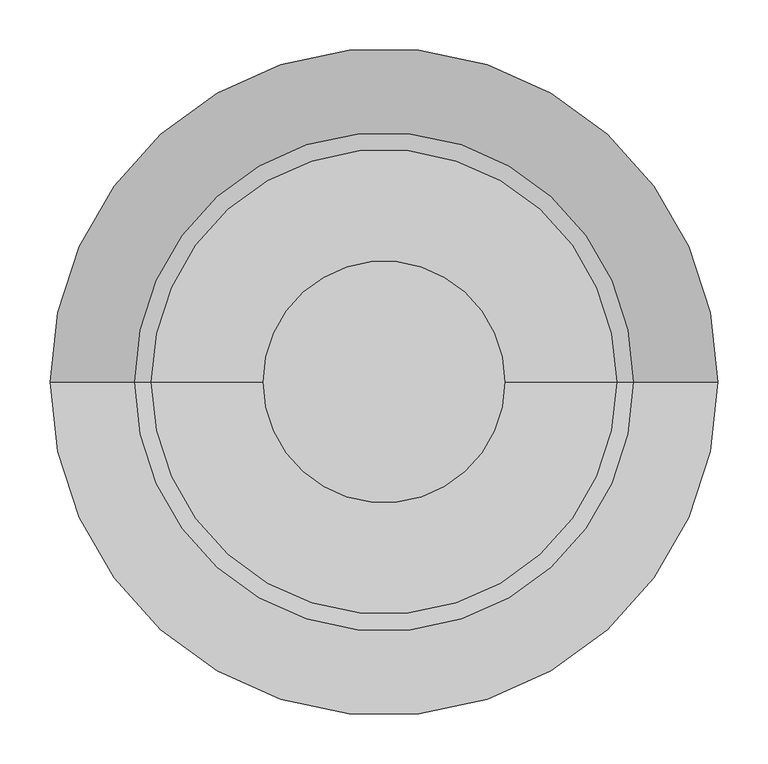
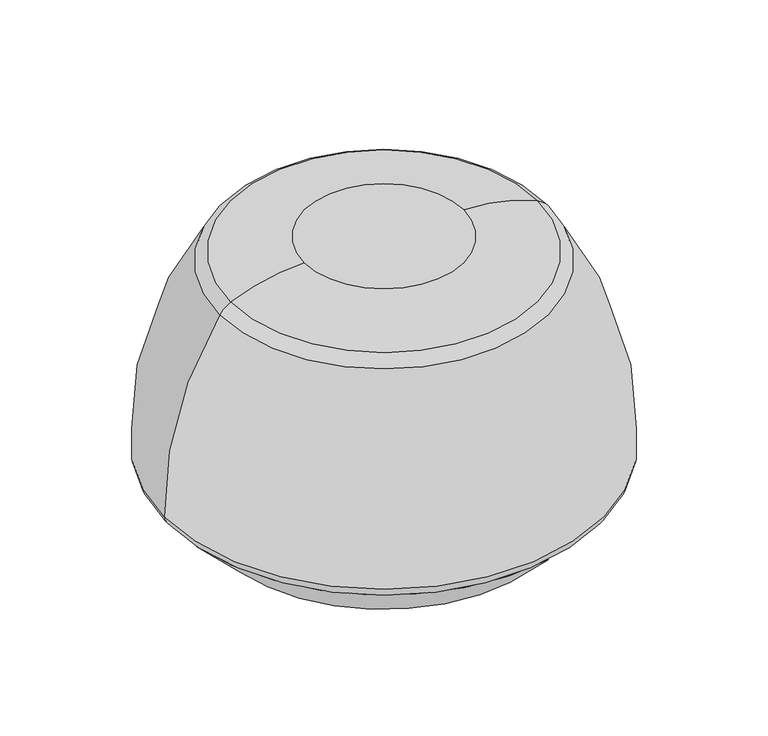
"""IFC4 building model written with IfcOpenShell, lengths in millimetres: furniture geometry, Pouf_Bensen_IlePouf_ILE001 : Pouf_Bensen_IlePouf_ILE001."""

from ifc_helpers import new_model, si_unit, point, frame, origin, place, context, project, spatial, polyline, circle_curve, ellipse_curve, trimmed, source, transform, mapped, element, save
from ifc_brep_helpers import plane_surface, revolved_surface, advanced_brep


def furniture_b467a2fe(model_context):
    return source(origin(), model_context, "Body", "AdvancedBrep", [
        advanced_brep(
        [(119.993779, 0.0, 420.0), (-119.993779, 0.0, 420.0), (-249.8596758, 0.0, 0.0), (249.8596758, 0.0, 0.0), (230.8720473, 0.0, 396.0506005), (-230.8720473, 0.0, 396.0506005), (247.6092461, 0.0, 381.8574548), (-247.6092461, 0.0, 381.8574548), (331.2425517, 0.0, 89.0138906), (-331.2425517, 0.0, 89.0138906), (325.3957224, 0.0, 75.5360466), (-325.3957224, 0.0, 75.5360466)],
        [
            (0, 1, circle_curve(frame((0.0, 0.0, 420.0), z_axis=(0.0, 0.0, 1.0), x_axis=(-1.0, 0.0, 0.0)), 119.993779)),
            (1, 0, circle_curve(frame((0.0, 0.0, 420.0), z_axis=(0.0, 0.0, 1.0), x_axis=(-1.0, 0.0, 0.0)), 119.993779)),
            (2, 3, circle_curve(frame((0.0, 0.0, 0.0), z_axis=(0.0, 0.0, -1.0), x_axis=(-1.0, 0.0, 0.0)), 249.8596758)),
            (3, 2, circle_curve(frame((0.0, 0.0, 0.0), z_axis=(0.0, 0.0, -1.0), x_axis=(-1.0, 0.0, 0.0)), 249.8596758)),
            (4, 5, circle_curve(frame((0.0, 0.0, 396.0506005), z_axis=(0.0, 0.0, 1.0), x_axis=(-1.0, 0.0, 0.0)), 230.8720473)),
            (5, 1, circle_curve(frame((-119.993779, 0.0, 151.3593575), z_axis=(0.0, 1.0, 0.0), x_axis=(1.0, 0.0, 0.0)), 268.6406425)),
            (0, 4, circle_curve(frame((119.993779, 0.0, 151.3593575), z_axis=(0.0, 1.0, 0.0), x_axis=(-1.0, 0.0, 0.0)), 268.6406425)),
            (5, 4, circle_curve(frame((0.0, 0.0, 396.0506005), z_axis=(0.0, 0.0, 1.0), x_axis=(-1.0, 0.0, 0.0)), 230.8720473)),
            (4, 6, circle_curve(frame((214.3625174, 0.0, 359.6166134), z_axis=(0.0, 1.0, 0.0), x_axis=(-1.0, 0.0, 0.0)), 40.0)),
            (6, 7, circle_curve(frame((0.0, 0.0, 381.8574548), z_axis=(0.0, 0.0, 1.0), x_axis=(-1.0, 0.0, 0.0)), 247.6092461)),
            (7, 5, circle_curve(frame((-214.3625174, 0.0, 359.6166134), z_axis=(0.0, 1.0, 0.0), x_axis=(1.0, 0.0, 0.0)), 40.0)),
            (7, 6, circle_curve(frame((0.0, 0.0, 381.8574548), z_axis=(0.0, 0.0, 1.0), x_axis=(-1.0, 0.0, 0.0)), 247.6092461)),
            (6, 8, circle_curve(frame((-165.4721357, 0.0, 105.5211689), z_axis=(0.0, 1.0, 0.0), x_axis=(-1.0, 0.0, 0.0)), 496.9889042)),
            (8, 9, circle_curve(frame((0.0, 0.0, 89.0138906), z_axis=(0.0, 0.0, 1.0), x_axis=(-1.0, 0.0, 0.0)), 331.2425517)),
            (9, 7, circle_curve(frame((165.4721357, 0.0, 105.5211689), z_axis=(0.0, 1.0, 0.0), x_axis=(1.0, 0.0, 0.0)), 496.9889042)),
            (9, 8, circle_curve(frame((0.0, 0.0, 89.0138906), z_axis=(0.0, 0.0, 1.0), x_axis=(-1.0, 0.0, 0.0)), 331.2425517)),
            (8, 10, circle_curve(frame((311.2535868, 0.0, 89.6781823), z_axis=(0.0, 1.0, 0.0), x_axis=(-1.0, 0.0, 0.0)), 20.0)),
            (10, 11, circle_curve(frame((0.0, 0.0, 75.5360466), z_axis=(0.0, 0.0, 1.0), x_axis=(-1.0, 0.0, 0.0)), 325.3957224)),
            (11, 9, circle_curve(frame((-311.2535868, 0.0, 89.6781823), z_axis=(0.0, 1.0, 0.0), x_axis=(1.0, 0.0, 0.0)), 20.0)),
            (11, 10, circle_curve(frame((0.0, 0.0, 75.5360466), z_axis=(0.0, 0.0, 1.0), x_axis=(-1.0, 0.0, 0.0)), 325.3957224)),
            (10, 3),
            (2, 11),
        ],
        [
            plane_surface(frame((119.993779, 0.0, 420.0), z_axis=(0.0, 0.0, 1.0), x_axis=(0.0, 1.0, 0.0))),
            plane_surface(frame((119.993779, 0.0, 0.0), z_axis=(0.0, 0.0, -1.0), x_axis=(0.0, -1.0, 0.0))),
            revolved_surface(trimmed(ellipse_curve(frame((-119.993779, 0.0, 151.3593575), z_axis=(0.0, -1.0, 0.0), x_axis=(1.0, 0.0, 0.0)), 268.6406425, 268.6406425), [point((-119.993779, 0.0, 420.0))], [point((-230.8720473, 0.0, 396.0506005))], True, "CARTESIAN"), (0.0, 0.0, 490.0), (0.0, 0.0, -1.0)),
            revolved_surface(trimmed(ellipse_curve(frame((-214.3625174, 0.0, 359.6166134), z_axis=(0.0, -1.0, 0.0), x_axis=(1.0, 0.0, 0.0)), 40.0, 40.0), [point((-230.8720473, 0.0, 396.0506005))], [point((-247.6092461, 0.0, 381.8574548))], True, "CARTESIAN"), (0.0, 0.0, 490.0), (0.0, 0.0, -1.0)),
            revolved_surface(trimmed(ellipse_curve(frame((165.4721357, 0.0, 105.5211689), z_axis=(0.0, -1.0, 0.0), x_axis=(1.0, 0.0, 0.0)), 496.9889042, 496.9889042), [point((-247.6092461, 0.0, 381.8574548))], [point((-331.2425517, 0.0, 89.0138906))], True, "CARTESIAN"), (0.0, 0.0, 490.0), (0.0, 0.0, -1.0)),
            revolved_surface(trimmed(ellipse_curve(frame((-311.2535868, 0.0, 89.6781823), z_axis=(0.0, -1.0, 0.0), x_axis=(1.0, 0.0, 0.0)), 20.0, 20.0), [point((-331.2425517, 0.0, 89.0138906))], [point((-325.3957224, 0.0, 75.5360466))], True, "CARTESIAN"), (0.0, 0.0, 490.0), (0.0, 0.0, -1.0)),
            revolved_surface(polyline([(-325.3957224, 0.0, 75.5360466), (-249.8596758, 0.0, 0.0)]), (0.0, 0.0, 490.0), (0.0, 0.0, -1.0)),
        ],
        [
            (0, [[1, 2]]),
            (1, [[3, 4]]),
            (2, [[5, 6, -1, 7]]),
            (2, [[-6, 8, -7, -2]]),
            (3, [[-5, 9, 10, 11]]),
            (3, [[-8, -11, 12, -9]]),
            (4, [[-10, 13, 14, 15]]),
            (4, [[-12, -15, 16, -13]]),
            (5, [[-14, 17, 18, 19]]),
            (5, [[-16, -19, 20, -17]]),
            (6, [[-18, 21, -3, 22]]),
            (6, [[-20, -22, -4, -21]]),
        ],
    ),
    ])


if __name__ == "__main__":
    model = new_model("IFC4")
    model_context = context("Model", 3, world=origin())
    ifc_project = project(units=[si_unit("LENGTHUNIT", "METRE", prefix="MILLI")], contexts=[model_context])
    site = spatial("IfcSite", under=ifc_project)
    building = spatial("IfcBuilding", under=site)
    placement = place(None, origin())
    furniture_shape = furniture_b467a2fe(model_context)
    element("IfcFurniture", 1, ObjectType="Pouf_Bensen_IlePouf_ILE001 : Pouf_Bensen_IlePouf_ILE001", at=placement, inside=building, context=model_context, shape_type="MappedRepresentation", body=[
        mapped(furniture_shape, transform((0.0, 0.0, 0.0), x_axis=(1.0, 0.0, 0.0), y_axis=(0.0, 1.0, 0.0), z_axis=(0.0, 0.0, 1.0))),
    ])
    save(model, "model.ifc")
